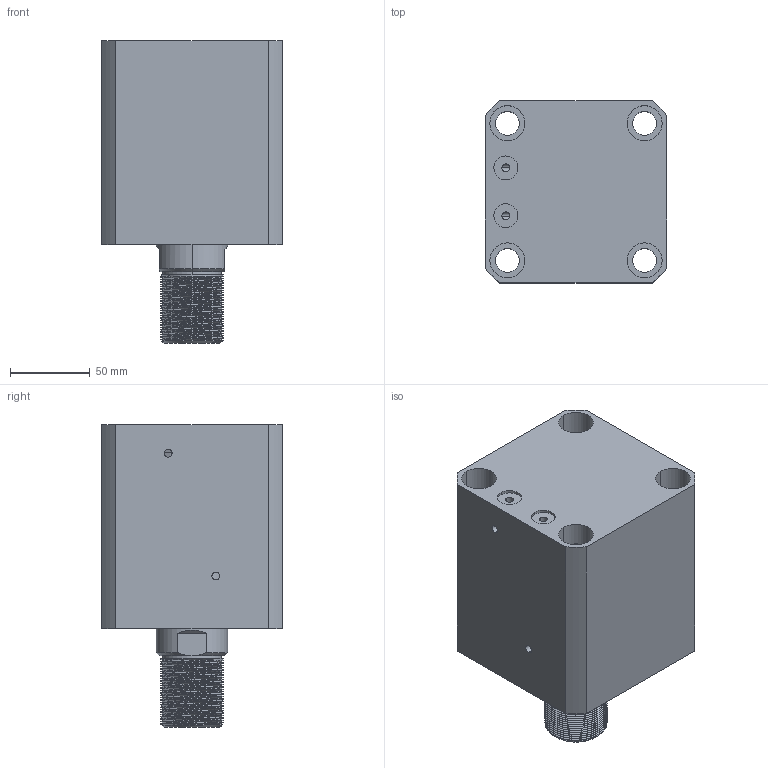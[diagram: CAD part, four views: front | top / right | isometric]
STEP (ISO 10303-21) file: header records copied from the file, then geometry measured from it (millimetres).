
FILE_DESCRIPTION (( 'STEP AP214' ), '1' );
FILE_NAME ('chtb-sdmb80x50w_asm.STEP', '2018-05-26T02:41:07', ( 'Windows' ), ( 'Microsoft' ), 'SwSTEP 2.0', 'SolidWorks 2015', '' );
FILE_SCHEMA (( 'AUTOMOTIVE_DESIGN' ));
Length unit declared in the file: millimetre
Products named in the file (4): CHTB-SDMB80X50NBT; CHTB-SD80X50WHSG; CHTB-SD80QG; chtb-sdmb80x50w_asm
Assembly tree (3 placements, depth 2):
  chtb-sdmb80x50w_asm
    CHTB-SD80QG
    CHTB-SD80X50WHSG
    CHTB-SDMB80X50NBT
Bounding box: 114 x 114 x 190 mm (x, y, z)
Volume: 1415137.8 mm3; surface area: 207945.3 mm2
Topology: 3 solids, 3 shells, 251 faces, 695 edges, 466 vertices
Faces by surface type: cylinder 163, plane 38, torus 18, bspline 16, cone 16
Entity records: 20297 total; most frequent: CARTESIAN_POINT 14321, ORIENTED_EDGE 1382, DIRECTION 1068, EDGE_CURVE 691, VERTEX_POINT 466, AXIS2_PLACEMENT_3D 433, EDGE_LOOP 289, FACE_OUTER_BOUND 251
